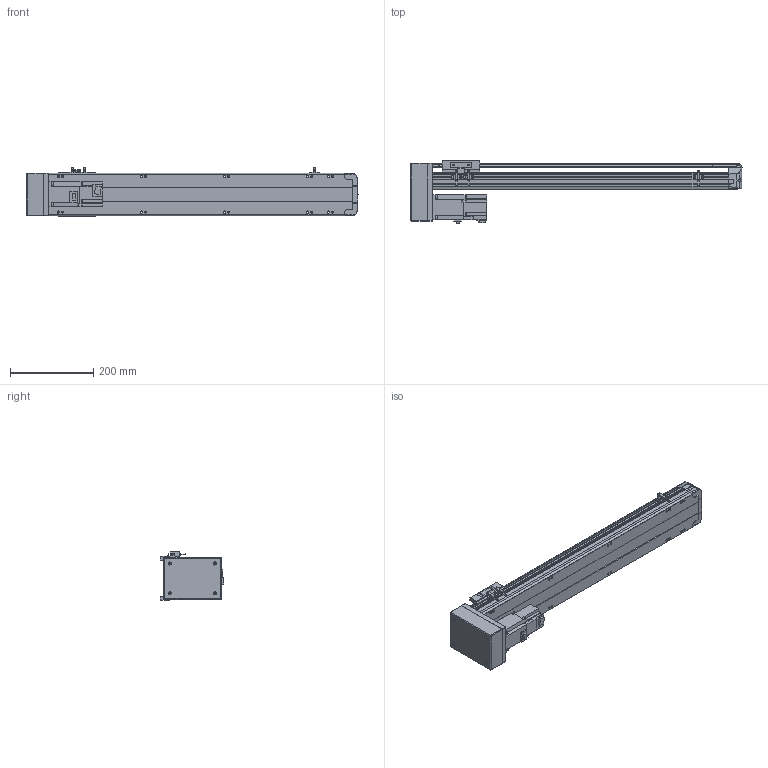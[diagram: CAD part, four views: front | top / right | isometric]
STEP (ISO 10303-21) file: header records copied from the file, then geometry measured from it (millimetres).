
FILE_DESCRIPTION( ( 'STEP AP214' ), '1' );
FILE_NAME( 'x:/temp/worker_27/temp/exporttempdir_6708_74_0wU4X/format_0/PSS120-L10-S550-BM-T40-C1-N(0).stp', '2022-06-06T00:26:39', ( 'License CC BY-ND 4.0' ), ( 'CADENAS' ), ' ', 'PARTsolutions', ' ' );
FILE_SCHEMA( ( 'AUTOMOTIVE_DESIGN { 1 0 10303 214 1 1 1 1 }' ) );
Length unit declared in the file: millimetre
Products named in the file (8): PSS120-L10-S550-BM-T40-C1-N(0); _PSS120-S550-BM-C1-N_body; _PSS120-N_Q; _PSS120-BM-C1-N_sl; _PSS120-N_sensor; _PSS120BM-N_h; _T40-p1; _PSS120-S550-BM-N_S
Assembly tree (9 placements, depth 2):
  PSS120-L10-S550-BM-T40-C1-N(0)
    _PSS120-S550-BM-C1-N_body
    _PSS120-N_Q
    _PSS120-BM-C1-N_sl
    _PSS120-N_sensor  x3
    _PSS120BM-N_h
    _T40-p1
    _PSS120-S550-BM-N_S
Bounding box: 799.35 x 151.8 x 117.7 mm (x, y, z)
Volume: 3511762.4 mm3; surface area: 572950.8 mm2
Topology: 9 solids, 9 shells, 825 faces, 2221 edges, 1474 vertices
Faces by surface type: plane 574, cylinder 229, cone 18, sphere 4
Full cylindrical faces by diameter (mm): 2.8 x3, 4 x4, 4.134 x14, 4.4 x2, 4.5 x4, 4.6 x3, 5 x6, 5.5 x17, 7 x2, 7.4 x4, 8 x4, 8.5 x14, 14 x1, 28 x1, 32 x2, 50 x1
Entity records: 28369 total; most frequent: CARTESIAN_POINT 4412, DIRECTION 3705, ORIENTED_EDGE 3634, EDGE_CURVE 1817, LINE 1295, VECTOR 1295, VERTEX_POINT 1262, AXIS2_PLACEMENT_3D 1205
